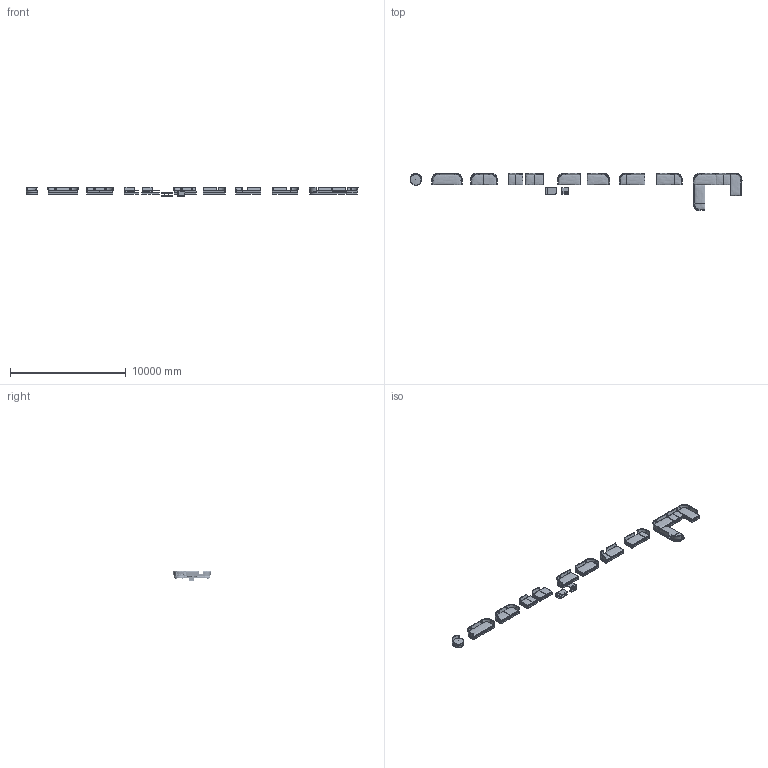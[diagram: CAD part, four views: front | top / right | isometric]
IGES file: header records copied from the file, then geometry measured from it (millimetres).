
Global section: file name: 33HD:\2D_3D NUOVI PRODOTTI 2024\MON; native system: Rhinoceros ( Aug 11 2021 ); preprocessor: Trout Lake IGES 012 Aug 11 2021; date: 240403.144929; units: millimetre
Bounding box: 28722.89 x 3253.31 x 821.76 mm (x, y, z)
Surface area: 165781020.4 mm2 (no closed solid volume)
Topology: 0 solids, 0 shells, 6031 faces, 33926 edges, 33451 vertices
Faces by surface type: bspline 6031
